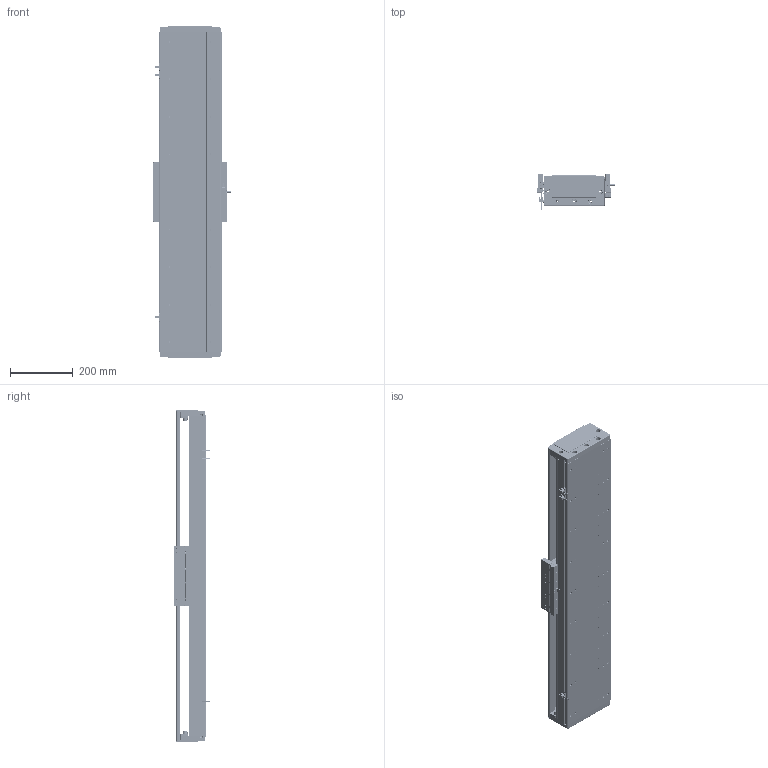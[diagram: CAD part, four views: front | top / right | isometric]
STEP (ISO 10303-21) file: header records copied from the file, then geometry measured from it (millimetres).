
FILE_DESCRIPTION (( 'STEP AP203' ), '1' );
FILE_NAME ('DA-C195-C2-T780-C010-0.2 眻盄萇儂.STEP', '2025-08-15T01:02:20', ( '' ), ( '' ), 'SwSTEP 2.0', 'SolidWorks 2019', '' );
FILE_SCHEMA (( 'CONFIG_CONTROL_DESIGN' ));
Length unit declared in the file: millimetre
Products named in the file (12): CU195-C2賑輸-俋楷; MS200 棠掑喜S315-T240; LMT黍杅芛; DA-C195-C2-T780-C010-0.2 眻盄萇儂; DA195-DG-H-00  端盖（压铸镂空版）; 葩璃 DA95-GT-T-00; 66156-0001-005-00 光电感应片(默认); IU-CU195-L-00 菁釱(L1020); IU-CU195-L 菁釱絳寢; 66156-0001-003-00 裔啣; PM-T45ㄗ侂狟ㄘ; DA95-HXJ-00 遣喳砎蝶
Assembly tree (20 placements, depth 3):
  DA-C195-C2-T780-C010-0.2 眻盄萇儂
    IU-CU195-L 菁釱絳寢
      IU-CU195-L-00 菁釱(L1020)
      葩璃 DA95-GT-T-00  x4
    LMT黍杅芛
    MS200 棠掑喜S315-T240
    PM-T45ㄗ侂狟ㄘ  x3
    66156-0001-005-00 光电感应片(默认)
    DA195-DG-H-00  端盖（压铸镂空版）  x2
    DA95-HXJ-00 遣喳砎蝶  x4
    66156-0001-003-00 裔啣
    CU195-C2賑輸-俋楷
Bounding box: 248 x 115.6 x 1060 mm (x, y, z)
Volume: 7599147.2 mm3; surface area: 2168931.3 mm2
Topology: 58 solids, 130 shells, 5205 faces, 13244 edges, 8041 vertices
Faces by surface type: cylinder 2221, plane 1634, bspline 710, cone 560, torus 44, sphere 36
Entity records: 142863 total; most frequent: CARTESIAN_POINT 44323, ORIENTED_EDGE 20542, DIRECTION 19808, EDGE_CURVE 10271, AXIS2_PLACEMENT_3D 7367, VERTEX_POINT 6471, VECTOR 5074, LINE 5074
